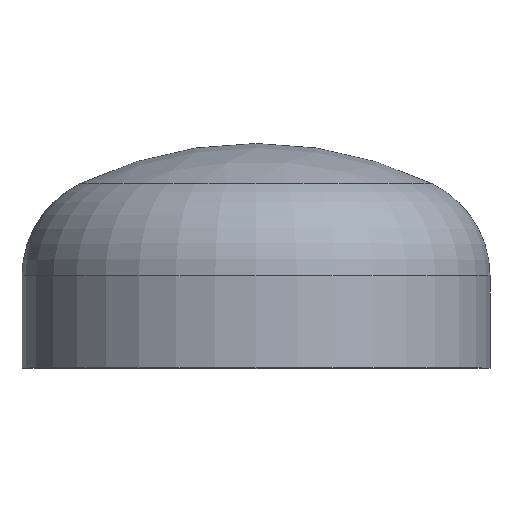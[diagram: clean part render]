
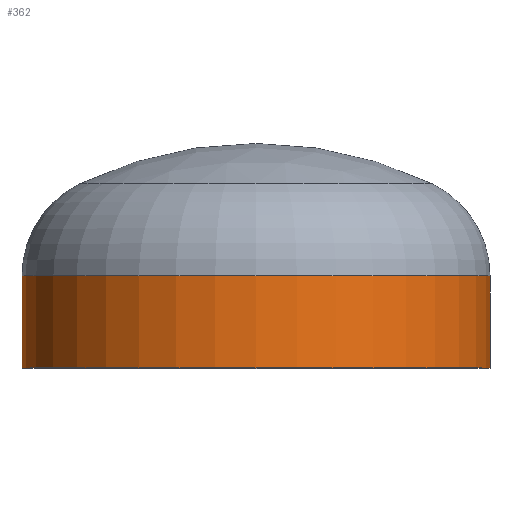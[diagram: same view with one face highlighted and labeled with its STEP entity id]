
A CAD part, top view. The second image highlights one B-rep face of the part: STEP entity #362.
In plain terms, the highlighted cylindrical face has radius 254 mm (diameter 508 mm), a partial arc.
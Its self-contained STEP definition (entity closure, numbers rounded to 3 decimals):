
#11 = VERTEX_POINT ( 'NONE', #263 ) ;
#26 = CARTESIAN_POINT ( 'NONE',  ( 254., 0., 0. ) ) ;
#53 = VERTEX_POINT ( 'NONE', #255 ) ;
#55 = EDGE_LOOP ( 'NONE', ( #133, #81, #128, #167 ) ) ;
#61 = AXIS2_PLACEMENT_3D ( 'NONE', #212, #328, #326 ) ;
#70 = EDGE_CURVE ( 'NONE', #78, #11, #147, .T. ) ;
#78 = VERTEX_POINT ( 'NONE', #171 ) ;
#81 = ORIENTED_EDGE ( 'NONE', *, *, #349, .T. ) ;
#95 = DIRECTION ( 'NONE',  ( 0., -1., 0. ) ) ;
#100 = DIRECTION ( 'NONE',  ( 1., 0., 0. ) ) ;
#101 = CARTESIAN_POINT ( 'NONE',  ( -254., 0., 0. ) ) ;
#128 = ORIENTED_EDGE ( 'NONE', *, *, #348, .F. ) ;
#133 = ORIENTED_EDGE ( 'NONE', *, *, #70, .T. ) ;
#147 = CIRCLE ( 'NONE', #61, 254. ) ;
#155 = CIRCLE ( 'NONE', #200, 254. ) ;
#167 = ORIENTED_EDGE ( 'NONE', *, *, #342, .F. ) ;
#171 = CARTESIAN_POINT ( 'NONE',  ( 254., 100., 0. ) ) ;
#200 = AXIS2_PLACEMENT_3D ( 'NONE', #372, #217, #375 ) ;
#212 = CARTESIAN_POINT ( 'NONE',  ( 0., 100., 0. ) ) ;
#217 = DIRECTION ( 'NONE',  ( 0., -1., 0. ) ) ;
#231 = LINE ( 'NONE', #101, #405 ) ;
#237 = DIRECTION ( 'NONE',  ( 0., -1., 0. ) ) ;
#255 = CARTESIAN_POINT ( 'NONE',  ( 254., 0., 0. ) ) ;
#263 = CARTESIAN_POINT ( 'NONE',  ( -254., 100., 0. ) ) ;
#268 = AXIS2_PLACEMENT_3D ( 'NONE', #352, #95, #100 ) ;
#276 = CYLINDRICAL_SURFACE ( 'NONE', #268, 254. ) ;
#295 = VECTOR ( 'NONE', #398, 1000. ) ;
#316 = CARTESIAN_POINT ( 'NONE',  ( -254., 0., 0. ) ) ;
#326 = DIRECTION ( 'NONE',  ( 1., 0., 0. ) ) ;
#328 = DIRECTION ( 'NONE',  ( 0., -1., 0. ) ) ;
#342 = EDGE_CURVE ( 'NONE', #78, #53, #409, .T. ) ;
#343 = FACE_OUTER_BOUND ( 'NONE', #55, .T. ) ;
#348 = EDGE_CURVE ( 'NONE', #53, #408, #155, .T. ) ;
#349 = EDGE_CURVE ( 'NONE', #11, #408, #231, .T. ) ;
#352 = CARTESIAN_POINT ( 'NONE',  ( 0., 0., 0. ) ) ;
#362 = ADVANCED_FACE ( 'NONE', ( #343 ), #276, .T. ) ;
#372 = CARTESIAN_POINT ( 'NONE',  ( 0., 0., 0. ) ) ;
#375 = DIRECTION ( 'NONE',  ( 1., 0., 0. ) ) ;
#398 = DIRECTION ( 'NONE',  ( 0., -1., 0. ) ) ;
#405 = VECTOR ( 'NONE', #237, 1000. ) ;
#408 = VERTEX_POINT ( 'NONE', #316 ) ;
#409 = LINE ( 'NONE', #26, #295 ) ;
